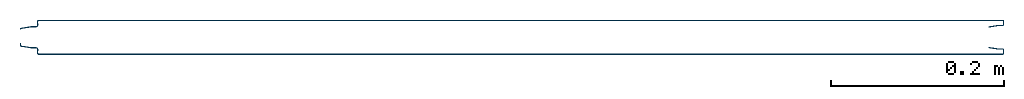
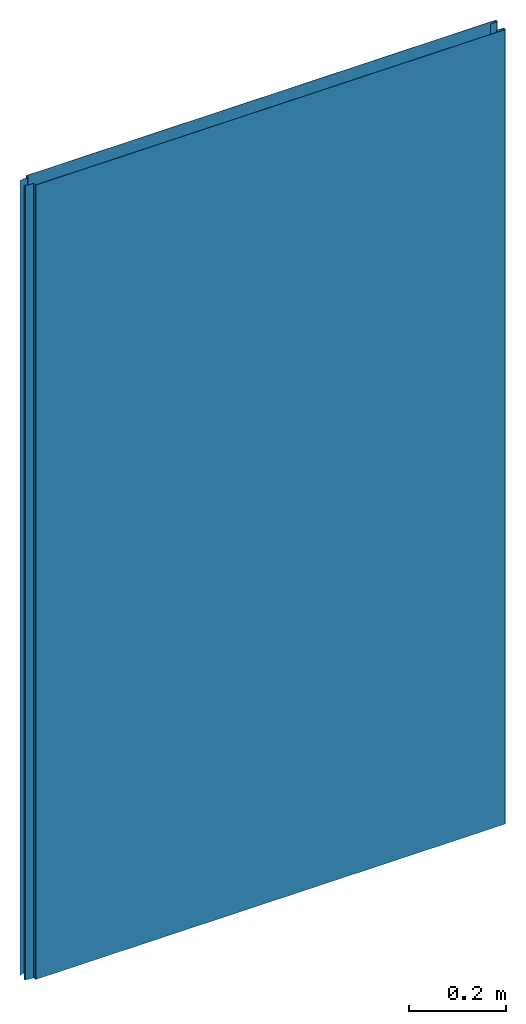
# One storey: 1 wall.
"""IFC2X3 building model written with IfcOpenShell, lengths in metres."""

import ifcopenshell
import ifcopenshell.guid

model = None  # the IFC model being written
_history = None  # IfcOwnerHistory: only IFC2X3 demands one
_inside = {}  # id of a spatial element -> (the spatial element, [elements in it])
_under = {}  # id of a project, library or spatial element -> (it, [spatial elements below it])
_declared = {}  # id of a project -> (the project, [libraries it declares])
_typed = {}  # id of a type object -> (the type object, [elements of that type])
_made_of = {}  # id of a material, layer set ... -> (it, [elements and type objects made of it])


def new_model(schema):
    """Start an empty IFC model of exactly this schema.

    Asked for "IFC4X3", IfcOpenShell would pick the latest addendum, in which some entities
    have other attributes; the version numbers below select the first issue.
    IFC2X3 requires an IfcOwnerHistory on every rooted entity: one is made here for all.
    """
    global model, _history
    if schema == "IFC4X3":
        model = ifcopenshell.file(schema_version=(4, 3, 0, 0))
    else:
        model = ifcopenshell.file(schema=schema)
    _inside.clear()
    _under.clear()
    _declared.clear()
    _typed.clear()
    _made_of.clear()
    _history = None
    if model.schema == "IFC2X3":
        org = make("IfcOrganization", Name="unknown")
        user = make(
            "IfcPersonAndOrganization",
            ThePerson=make("IfcPerson", FamilyName="unknown"),
            TheOrganization=org,
        )
        app = make(
            "IfcApplication",
            ApplicationDeveloper=org,
            Version="unknown",
            ApplicationFullName="unknown",
            ApplicationIdentifier="unknown",
        )
        _history = make(
            "IfcOwnerHistory",
            OwningUser=user,
            OwningApplication=app,
            ChangeAction="ADDED",
            CreationDate=0,
        )
    return model


def make(cls, **values):
    """One entity of the class cls with the attributes given. An attribute that is None is left unset."""
    return model.create_entity(
        cls, **{name: value for name, value in values.items() if value is not None}
    )


def entity(cls, *values):
    """Any entity or typed value of the class cls, its attributes in the order of the schema. None: left unset."""
    e = model.create_entity(cls)
    for i, value in enumerate(values):
        if value is not None:
            e[i] = value
    return e


def rooted(cls, **values):
    """An entity with a GlobalId (a new one), such as an element, a storey or a relation."""
    return make(cls, GlobalId=ifcopenshell.guid.new(), OwnerHistory=_history, **values)


def si_unit(unit_type, name, prefix=None):
    """IfcSIUnit, for example si_unit("LENGTHUNIT", "METRE", prefix="MILLI")."""
    return make("IfcSIUnit", UnitType=unit_type, Prefix=prefix, Name=name)


def converted_unit(unit_type, name, factor, base, dimensions=None, offset=None):
    """IfcConversionBasedUnit, such as the inch: factor (a typed value) times the base unit."""
    return make(
        "IfcConversionBasedUnit"
        if offset is None
        else "IfcConversionBasedUnitWithOffset",
        ConversionOffset=offset,
        Dimensions=None
        if dimensions is None
        else entity("IfcDimensionalExponents", *dimensions),
        UnitType=unit_type,
        Name=name,
        ConversionFactor=make(
            "IfcMeasureWithUnit", ValueComponent=factor, UnitComponent=base
        ),
    )


def derived_unit(unit_type, elements):
    """IfcDerivedUnit: a product of units, each with its exponent."""
    return make(
        "IfcDerivedUnit",
        Elements=[
            make("IfcDerivedUnitElement", Unit=unit, Exponent=power)
            for unit, power in elements
        ],
        UnitType=unit_type,
    )


def assignment(units):
    """IfcUnitAssignment: the units of a project."""
    return None if units is None else make("IfcUnitAssignment", Units=units)


def point(xyz):
    """IfcCartesianPoint."""
    return None if xyz is None else make("IfcCartesianPoint", Coordinates=xyz)


def direction(xyz):
    """IfcDirection."""
    return None if xyz is None else make("IfcDirection", DirectionRatios=xyz)


def frame(location, z_axis=None, x_axis=None):
    """IfcAxis2Placement3D, a coordinate frame: its origin and axes. An axis left out is left unset."""
    return make(
        "IfcAxis2Placement3D",
        Location=point(location),
        Axis=direction(z_axis),
        RefDirection=direction(x_axis),
    )


def frame_2d(location, x_axis=None):
    """IfcAxis2Placement2D, a coordinate frame in the plane: its origin and x axis."""
    return make(
        "IfcAxis2Placement2D", Location=point(location), RefDirection=direction(x_axis)
    )


def origin():
    """The frame at (0, 0, 0) with its axes left unset."""
    return frame((0.0, 0.0, 0.0))


def place(relative_to, where):
    """IfcLocalPlacement: puts the frame where relative to a parent placement (None: the world)."""
    return make(
        "IfcLocalPlacement", PlacementRelTo=relative_to, RelativePlacement=where
    )


def context(
    kind, dimensions, precision=None, world=None, true_north=None, identifier=None
):
    """IfcGeometricRepresentationContext, for example the 3D "Model" context."""
    return make(
        "IfcGeometricRepresentationContext",
        ContextIdentifier=identifier,
        ContextType=kind,
        CoordinateSpaceDimension=dimensions,
        Precision=precision,
        WorldCoordinateSystem=world,
        TrueNorth=true_north,
    )


def subcontext(parent, identifier, kind, view, scale=None):
    """IfcGeometricRepresentationSubContext, for example "Body" below "Model"."""
    return make(
        "IfcGeometricRepresentationSubContext",
        ContextIdentifier=identifier,
        ContextType=kind,
        ParentContext=parent,
        TargetScale=scale,
        TargetView=view,
    )


def project(units=None, contexts=None):
    """IfcProject with its units and contexts."""
    return rooted(
        "IfcProject",
        Name="project",
        RepresentationContexts=contexts,
        UnitsInContext=assignment(units),
    )


def spatial(cls, under=None, at=None, **own):
    """A site, building, storey or space (cls), placed at a placement, below another one or the project."""
    s = rooted(cls, ObjectPlacement=at, **own)
    if under is not None:
        _under.setdefault(under.id(), (under, []))[1].append(s)
    return s


def polyline(points):
    """IfcPolyline through the points."""
    return make("IfcPolyline", Points=[point(p) for p in points])


def circle_curve(where, radius):
    """IfcCircle in the frame where."""
    return make("IfcCircle", Position=where, Radius=radius)


def parameter(value):
    """IfcParameterValue: where a trimmed curve begins or ends, as a parameter of its basis curve."""
    return model.create_entity("IfcParameterValue", value)


def trimmed(basis, trim1, trim2, sense, master):
    """IfcTrimmedCurve: the piece of a basis curve between two trims."""
    return make(
        "IfcTrimmedCurve",
        BasisCurve=basis,
        Trim1=trim1,
        Trim2=trim2,
        SenseAgreement=sense,
        MasterRepresentation=master,
    )


def segment(curve, same_sense, transition):
    """IfcCompositeCurveSegment."""
    return make(
        "IfcCompositeCurveSegment",
        Transition=transition,
        SameSense=same_sense,
        ParentCurve=curve,
    )


def composite_curve(segments, self_intersect=None):
    """IfcCompositeCurve: segments joined end to end."""
    return make("IfcCompositeCurve", Segments=segments, SelfIntersect=self_intersect)


def outline(outer, holes=None, kind="AREA"):
    """IfcArbitraryClosedProfileDef: a profile drawn as a closed curve; with holes, ...WithVoids."""
    if holes is None:
        return make("IfcArbitraryClosedProfileDef", ProfileType=kind, OuterCurve=outer)
    return make(
        "IfcArbitraryProfileDefWithVoids",
        ProfileType=kind,
        OuterCurve=outer,
        InnerCurves=holes,
    )


def extrude(swept, where, along, depth):
    """IfcExtrudedAreaSolid: the profile swept, set in the frame where, extruded along a direction by depth."""
    return make(
        "IfcExtrudedAreaSolid",
        SweptArea=swept,
        Position=where,
        ExtrudedDirection=direction(along),
        Depth=depth,
    )


def shape(context_of_items, identifier, shape_type, items):
    """IfcShapeRepresentation: the items that make up one representation, for example the "Body"."""
    return make(
        "IfcShapeRepresentation",
        ContextOfItems=context_of_items,
        RepresentationIdentifier=identifier,
        RepresentationType=shape_type,
        Items=items,
    )


def source(mapping_origin, context_of_items, identifier, shape_type, items):
    """IfcRepresentationMap: a shape defined once, which mapped items show again and again."""
    return make(
        "IfcRepresentationMap",
        MappingOrigin=mapping_origin,
        MappedRepresentation=shape(context_of_items, identifier, shape_type, items),
    )


def transform(
    local_origin,
    x_axis=None,
    y_axis=None,
    z_axis=None,
    scale=None,
    scale2=None,
    scale3=None,
    uniform=True,
):
    """IfcCartesianTransformationOperator3D, or its non-uniform kind. x_axis, y_axis, z_axis: its Axis1, 2, 3."""
    if uniform:
        return make(
            "IfcCartesianTransformationOperator3D",
            Axis1=direction(x_axis),
            Axis2=direction(y_axis),
            LocalOrigin=point(local_origin),
            Scale=scale,
            Axis3=direction(z_axis),
        )
    return make(
        "IfcCartesianTransformationOperator3DnonUniform",
        Axis1=direction(x_axis),
        Axis2=direction(y_axis),
        LocalOrigin=point(local_origin),
        Scale=scale,
        Axis3=direction(z_axis),
        Scale2=scale2,
        Scale3=scale3,
    )


def mapped(mapping_source, mapping_target):
    """IfcMappedItem: shows the shape of a source again, moved by a transform."""
    return make(
        "IfcMappedItem", MappingSource=mapping_source, MappingTarget=mapping_target
    )


def material(Name=None, Category=None):
    """IfcMaterial."""
    return make("IfcMaterial", Name=Name, Category=Category)


def material_list(materials):
    """IfcMaterialList."""
    return make("IfcMaterialList", Materials=materials)


def made_of(thing, what):
    """Note that an element or type object is made of a material, layer set ...; save() writes the relation."""
    if what is not None:
        _made_of.setdefault(what.id(), (what, []))[1].append(thing)
    return thing


def type_object(cls, material=None, **own):
    """A type object (cls), such as IfcWallType, which elements share."""
    return made_of(rooted(cls, **own), material)


def type_shapes(of_type, sources):
    """Give a type object the sources (RepresentationMaps) that its elements show as mapped items."""
    of_type.RepresentationMaps = sources


def element(
    cls,
    number,
    at=None,
    inside=None,
    cuts=None,
    type_object=None,
    material=None,
    context=None,
    identifier="Body",
    shape_type=None,
    held_by="IfcProductDefinitionShape",
    body=None,
    shapes=None,
    **own,
):
    """One element of the class cls, such as IfcWall. Its Tag is "e" and its number.

    at: its placement. inside: the storey or other place that contains it. cuts: it is an
    opening in that element (IfcRelVoidsElement). A single representation is given by context,
    identifier, shape_type and body (its items); several are given by shapes. held_by: the class
    of the entity that holds the representations. save() writes the other relations.
    """
    e = rooted(cls, Tag="e%d" % number, ObjectPlacement=at, **own)
    if body is not None:
        shapes = [shape(context, identifier, shape_type, body)]
    if shapes is not None:
        e.Representation = make(held_by, Representations=shapes)
    if inside is not None:
        _inside.setdefault(inside.id(), (inside, []))[1].append(e)
    if cuts is not None:
        rooted(
            "IfcRelVoidsElement", RelatingBuildingElement=cuts, RelatedOpeningElement=e
        )
    if type_object is not None:
        _typed.setdefault(type_object.id(), (type_object, []))[1].append(e)
    return made_of(e, material)


def aggregate(whole, parts):
    """IfcRelAggregates: a whole, such as a stair, and the parts it consists of."""
    return rooted("IfcRelAggregates", RelatingObject=whole, RelatedObjects=parts)


def save(model, path):
    """Write the relations noted so far, then the file.

    IfcRelAggregates (storeys below a building ...), IfcRelContainedInSpatialStructure (elements
    in a storey), IfcRelDefinesByType, IfcRelAssociatesMaterial and IfcRelDeclares: one each for
    every whole, place, type object, material and project.
    """
    for whole, parts in _under.values():
        aggregate(whole, parts)
    for where, things in _inside.values():
        rooted(
            "IfcRelContainedInSpatialStructure",
            RelatedElements=things,
            RelatingStructure=where,
        )
    for kind, things in _typed.values():
        rooted("IfcRelDefinesByType", RelatedObjects=things, RelatingType=kind)
    for what, things in _made_of.values():
        rooted("IfcRelAssociatesMaterial", RelatedObjects=things, RelatingMaterial=what)
    for by, libraries in _declared.values():
        rooted("IfcRelDeclares", RelatingContext=by, RelatedDefinitions=libraries)
    model.write(path)


model = new_model("IFC2X3")

# Units and contexts
model_context = context("Model", 3, precision=1e-05, world=origin(), true_north=direction((6.12303176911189e-17, 1.0)))
body_context = subcontext(model_context, "Body", "Model", "MODEL_VIEW")
ifc_project = project(units=[si_unit("LENGTHUNIT", "METRE"), si_unit("AREAUNIT", "SQUARE_METRE"), si_unit("VOLUMEUNIT", "CUBIC_METRE"), converted_unit("PLANEANGLEUNIT", "DEGREE", entity("IfcRatioMeasure", 0.0174532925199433), si_unit("PLANEANGLEUNIT", "RADIAN"), dimensions=[0, 0, 0, 0, 0, 0, 0]), si_unit("MASSUNIT", "GRAM", prefix="KILO"), derived_unit("MASSDENSITYUNIT", [(si_unit("MASSUNIT", "GRAM", prefix="KILO"), 1), (si_unit("LENGTHUNIT", "METRE"), -3)]), derived_unit("MOMENTOFINERTIAUNIT", [(si_unit("LENGTHUNIT", "METRE"), 4)]), si_unit("TIMEUNIT", "SECOND"), si_unit("FREQUENCYUNIT", "HERTZ"), si_unit("THERMODYNAMICTEMPERATUREUNIT", "DEGREE_CELSIUS"), derived_unit("THERMALTRANSMITTANCEUNIT", [(si_unit("MASSUNIT", "GRAM", prefix="KILO"), 1), (si_unit("THERMODYNAMICTEMPERATUREUNIT", "KELVIN"), -1), (si_unit("TIMEUNIT", "SECOND"), -3)]), derived_unit("VOLUMETRICFLOWRATEUNIT", [(si_unit("LENGTHUNIT", "METRE"), 3), (si_unit("TIMEUNIT", "SECOND"), -1)]), si_unit("ELECTRICCURRENTUNIT", "AMPERE"), si_unit("ELECTRICVOLTAGEUNIT", "VOLT"), si_unit("POWERUNIT", "WATT"), si_unit("FORCEUNIT", "NEWTON", prefix="KILO"), si_unit("ILLUMINANCEUNIT", "LUX"), si_unit("LUMINOUSFLUXUNIT", "LUMEN"), si_unit("LUMINOUSINTENSITYUNIT", "CANDELA"), derived_unit("USERDEFINED", [(si_unit("MASSUNIT", "GRAM", prefix="KILO"), -1), (si_unit("LENGTHUNIT", "METRE"), -2), (si_unit("TIMEUNIT", "SECOND"), 3), (si_unit("LUMINOUSFLUXUNIT", "LUMEN"), 1)]), derived_unit("LINEARVELOCITYUNIT", [(si_unit("LENGTHUNIT", "METRE"), 1), (si_unit("TIMEUNIT", "SECOND"), -1)]), si_unit("PRESSUREUNIT", "PASCAL"), derived_unit("USERDEFINED", [(si_unit("LENGTHUNIT", "METRE"), -2), (si_unit("MASSUNIT", "GRAM", prefix="KILO"), 1), (si_unit("TIMEUNIT", "SECOND"), -2)]), derived_unit("LINEARFORCEUNIT", [(si_unit("MASSUNIT", "GRAM", prefix="KILO"), 1), (si_unit("LENGTHUNIT", "METRE"), 1), (si_unit("TIMEUNIT", "SECOND"), -2), (si_unit("LENGTHUNIT", "METRE"), -1)]), derived_unit("PLANARFORCEUNIT", [(si_unit("MASSUNIT", "GRAM", prefix="KILO"), 1), (si_unit("LENGTHUNIT", "METRE"), 1), (si_unit("TIMEUNIT", "SECOND"), -2), (si_unit("LENGTHUNIT", "METRE"), -2)])], contexts=[model_context])

# Site, building, storey
site_placement = place(None, origin())
site = spatial("IfcSite", under=ifc_project, at=site_placement, Name="Default", CompositionType="ELEMENT")
building_placement = place(site_placement, origin())
building = spatial("IfcBuilding", under=site, at=building_placement, CompositionType="ELEMENT")
storey_placement = place(building_placement, origin())
storey = spatial("IfcBuildingStorey", under=building, at=storey_placement, Name="Nivel 1", CompositionType="ELEMENT", Elevation=0.0)

# Wall
ifc_material_1 = material(Name="Acero estructural S220GD")
ifc_material_2 = material(Name="QuadCore 2.0")
ifc_material_list_1 = material_list([ifc_material_1, ifc_material_2])
ifc_material_list_2 = material_list([ifc_material_2, ifc_material_1])
wall_type = type_object("IfcWallType", Name="Panel_HI_QuadCore 2.0 F40_liso-liso:HI-Quadcore 2.0 F40 liso-liso", PredefinedType="NOTDEFINED", material=ifc_material_list_2)
shared_shape = source(origin(), body_context, "Body", "SweptSolid", [
    extrude(outline(composite_curve([segment(trimmed(circle_curve(frame_2d((-0.534942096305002, 0.00505781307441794), x_axis=(1.0, 0.0)), 0.00160000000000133), [parameter(180.0)], [parameter(258.369443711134)], True, "PARAMETER"), True, "CONTINUOUS"), segment(polyline([(-0.535264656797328, 0.00349066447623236), (-0.524309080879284, 0.00174622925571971)]), True, "CONTINUOUS"), segment(trimmed(circle_curve(frame_2d((-0.523412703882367, 0.0117059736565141), x_axis=(1.0, 0.0)), 0.0100000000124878), [parameter(264.857235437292)], [parameter(269.999999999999)], True, "PARAMETER"), True, "CONTINUOUS"), segment(polyline([(-0.523412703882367, 0.00170597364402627), (-0.518070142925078, 0.00170597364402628)]), True, "CONTINUOUS"), segment(trimmed(circle_curve(frame_2d((-0.518070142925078, 0.000105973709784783), x_axis=(1.0, 0.0)), 0.0015999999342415), [parameter(359.032356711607)], [parameter(90.0000000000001)], True, "PARAMETER"), False, "CONTINUOUS"), segment(polyline([(-0.516470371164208, 7.89532972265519e-05), (-0.516542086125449, -0.00416700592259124)]), True, "CONTINUOUS"), segment(trimmed(circle_curve(frame_2d((-0.514942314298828, -0.00419402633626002), x_axis=(1.0, 0.0)), 0.0016000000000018), [parameter(179.032356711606)], [parameter(270.000025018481)], True, "PARAMETER"), True, "CONTINUOUS"), segment(polyline([(-0.51494231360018, -0.00579402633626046), (0.601380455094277, -0.00579353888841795)]), True, "CONTINUOUS"), segment(trimmed(circle_curve(frame_2d((0.601380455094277, -0.0041934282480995), x_axis=(1.0, 0.0)), 0.00160011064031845), [parameter(270.000000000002)], [parameter(351.367947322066)], True, "PARAMETER"), True, "CONTINUOUS"), segment(polyline([(0.602962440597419, -0.00443358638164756), (0.602888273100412, -0.000464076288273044)]), True, "CONTINUOUS"), segment(trimmed(circle_curve(frame_2d((0.601288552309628, -0.000493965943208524), x_axis=(1.0, 0.0)), 0.00159999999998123), [parameter(1.07040668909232)], [parameter(90.0000000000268)], True, "PARAMETER"), True, "CONTINUOUS"), segment(polyline([(0.601288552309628, 0.00110603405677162), (0.596086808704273, 0.00110603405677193)]), True, "CONTINUOUS"), segment(trimmed(circle_curve(frame_2d((0.596086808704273, 0.0117060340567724), x_axis=(1.0, 0.0)), 0.0106000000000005), [parameter(264.745082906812)], [parameter(270.0)], True, "PARAMETER"), False, "CONTINUOUS"), segment(polyline([(0.595115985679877, 0.00115058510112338), (0.585422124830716, 0.00269411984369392)]), True, "CONTINUOUS"), segment(polyline([(0.585422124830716, 0.00269411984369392), (0.585296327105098, 0.00190407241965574)]), True, "CONTINUOUS"), segment(polyline([(0.585296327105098, 0.00190407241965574), (0.595015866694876, 0.00035644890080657)]), True, "CONTINUOUS"), segment(trimmed(circle_curve(frame_2d((0.596086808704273, 0.0117060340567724), x_axis=(1.0, 0.0)), 0.0114000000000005), [parameter(264.609555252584)], [parameter(270.0)], True, "PARAMETER"), True, "CONTINUOUS"), segment(polyline([(0.596086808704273, 0.000306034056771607), (0.601288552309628, 0.000306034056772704)]), True, "CONTINUOUS"), segment(trimmed(circle_curve(frame_2d((0.601288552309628, -0.000493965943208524), x_axis=(1.0, 0.0)), 0.000799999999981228), [parameter(1.07040668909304)], [parameter(89.9999999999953)], True, "PARAMETER"), False, "CONTINUOUS"), segment(polyline([(0.602088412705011, -0.000479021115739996), (0.602161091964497, -0.00436887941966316)]), True, "CONTINUOUS"), segment(trimmed(circle_curve(frame_2d((0.601380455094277, -0.0041934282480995), x_axis=(1.0, 0.0)), 0.000800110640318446), [parameter(270.000000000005)], [parameter(347.333038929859)], True, "PARAMETER"), False, "CONTINUOUS"), segment(polyline([(0.601380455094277, -0.0049940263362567), (-0.514942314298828, -0.00499402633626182)]), True, "CONTINUOUS"), segment(trimmed(circle_curve(frame_2d((-0.514942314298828, -0.00419402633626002), x_axis=(1.0, 0.0)), 0.000800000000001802), [parameter(179.032356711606)], [parameter(270.0)], True, "PARAMETER"), False, "CONTINUOUS"), segment(polyline([(-0.515742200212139, -0.00418051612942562), (-0.515670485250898, 6.54430903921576e-05)]), True, "CONTINUOUS"), segment(trimmed(circle_curve(frame_2d((-0.518070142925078, 0.000105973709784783), x_axis=(1.0, 0.0)), 0.0023999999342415), [parameter(359.032356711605)], [parameter(90.0000000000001)], True, "PARAMETER"), True, "CONTINUOUS"), segment(polyline([(-0.518070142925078, 0.00250597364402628), (-0.523412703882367, 0.00250597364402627)]), True, "CONTINUOUS"), segment(trimmed(circle_curve(frame_2d((-0.523412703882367, 0.0117059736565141), x_axis=(1.0, 0.0)), 0.00920000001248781), [parameter(265.023521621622)], [parameter(270.0)], True, "PARAMETER"), False, "CONTINUOUS"), segment(polyline([(-0.524210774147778, 0.00254065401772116), (-0.535117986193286, 0.00427738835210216)]), True, "CONTINUOUS"), segment(trimmed(circle_curve(frame_2d((-0.534942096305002, 0.00505781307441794), x_axis=(1.0, 0.0)), 0.00080000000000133), [parameter(180.0)], [parameter(257.299051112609)], True, "PARAMETER"), False, "CONTINUOUS"), segment(polyline([(-0.535742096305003, 0.00505781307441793), (-0.536542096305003, 0.00505781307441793)]), True, "CONTINUOUS")], self_intersect=False)), frame((-0.0332076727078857, 0.0142059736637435, 0.0), z_axis=(0.0, 0.0, -1.0), x_axis=(1.0, 0.0, 0.0)), (0.0, 0.0, -1.0), 2.0),
    extrude(outline(composite_curve([segment(polyline([(-0.00661663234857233, -0.503033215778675), (-0.00461667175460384, -0.503033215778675)]), True, "CONTINUOUS"), segment(trimmed(circle_curve(frame_2d((-0.004616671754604, -0.501433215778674), x_axis=(0.0, 1.0)), 0.00160000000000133), [parameter(180.0)], [parameter(258.369443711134)], True, "PARAMETER"), True, "CONTINUOUS"), segment(polyline([(-0.0030495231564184, -0.501755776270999), (-0.00130508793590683, -0.490800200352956)]), True, "CONTINUOUS"), segment(trimmed(circle_curve(frame_2d((-0.0112648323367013, -0.48990382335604), x_axis=(0.0, 1.0)), 0.0100000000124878), [parameter(264.857235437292)], [parameter(269.999999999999)], True, "PARAMETER"), True, "CONTINUOUS"), segment(polyline([(-0.00126483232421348, -0.489903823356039), (-0.00126483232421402, -0.48456126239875)]), True, "CONTINUOUS"), segment(trimmed(circle_curve(frame_2d((0.00033516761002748, -0.484561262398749), x_axis=(0.0, 1.0)), 0.0015999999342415), [parameter(359.032356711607)], [parameter(90.0000000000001)], True, "PARAMETER"), False, "CONTINUOUS"), segment(polyline([(0.000362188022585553, -0.482961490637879), (0.00460814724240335, -0.48303320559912)]), True, "CONTINUOUS"), segment(trimmed(circle_curve(frame_2d((0.00463516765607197, -0.481433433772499), x_axis=(0.0, 1.0)), 0.0016000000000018), [parameter(179.032356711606)], [parameter(270.0)], True, "PARAMETER"), True, "CONTINUOUS"), segment(polyline([(0.00623516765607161, -0.481433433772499), (0.00623516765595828, 0.634889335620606)]), True, "CONTINUOUS"), segment(trimmed(circle_curve(frame_2d((0.00463456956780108, 0.634889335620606), x_axis=(0.0, 1.0)), 0.00160011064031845), [parameter(269.999999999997)], [parameter(351.367947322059)], True, "PARAMETER"), True, "CONTINUOUS"), segment(polyline([(0.00487472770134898, 0.636471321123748), (0.000905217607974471, 0.636397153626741)]), True, "CONTINUOUS"), segment(trimmed(circle_curve(frame_2d((0.000935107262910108, 0.634797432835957), x_axis=(0.0, 1.0)), 0.00159999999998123), [parameter(1.07040668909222)], [parameter(90.0000000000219)], True, "PARAMETER"), True, "CONTINUOUS"), segment(polyline([(-0.000664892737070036, 0.634797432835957), (-0.000664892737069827, 0.629595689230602)]), True, "CONTINUOUS"), segment(trimmed(circle_curve(frame_2d((-0.0112648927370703, 0.629595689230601), x_axis=(0.0, 1.0)), 0.0106000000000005), [parameter(264.745082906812)], [parameter(270.0)], True, "PARAMETER"), False, "CONTINUOUS"), segment(polyline([(-0.000709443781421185, 0.628624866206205), (-0.00225297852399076, 0.618931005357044)]), True, "CONTINUOUS"), segment(polyline([(-0.00225297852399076, 0.618931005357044), (-0.00146293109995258, 0.618805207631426)]), True, "CONTINUOUS"), segment(polyline([(-0.00146293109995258, 0.618805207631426), (8.4692418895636e-05, 0.628524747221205)]), True, "CONTINUOUS"), segment(trimmed(circle_curve(frame_2d((-0.0112648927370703, 0.629595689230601), x_axis=(0.0, 1.0)), 0.0114000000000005), [parameter(264.609555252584)], [parameter(270.0)], True, "PARAMETER"), True, "CONTINUOUS"), segment(polyline([(0.000135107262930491, 0.629595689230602), (0.000135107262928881, 0.634797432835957)]), True, "CONTINUOUS"), segment(trimmed(circle_curve(frame_2d((0.000935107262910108, 0.634797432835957), x_axis=(0.0, 1.0)), 0.000799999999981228), [parameter(1.07040668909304)], [parameter(90.0000000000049)], True, "PARAMETER"), False, "CONTINUOUS"), segment(polyline([(0.000920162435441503, 0.635597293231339), (0.00481002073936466, 0.635669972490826)]), True, "CONTINUOUS"), segment(trimmed(circle_curve(frame_2d((0.00463456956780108, 0.634889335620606), x_axis=(0.0, 1.0)), 0.000800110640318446), [parameter(270.000000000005)], [parameter(347.333038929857)], True, "PARAMETER"), False, "CONTINUOUS"), segment(polyline([(0.00543468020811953, 0.634889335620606), (0.00543468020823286, -0.481433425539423)]), True, "CONTINUOUS"), segment(trimmed(circle_curve(frame_2d((0.00463468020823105, -0.481433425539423), x_axis=(0.0, 1.0)), 0.000800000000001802), [parameter(179.032356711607)], [parameter(270.0)], True, "PARAMETER"), False, "CONTINUOUS"), segment(polyline([(0.00462117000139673, -0.482233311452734), (0.000375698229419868, -0.482161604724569)]), True, "CONTINUOUS"), segment(trimmed(circle_curve(frame_2d((0.00033516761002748, -0.484561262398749), x_axis=(0.0, 1.0)), 0.0023999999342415), [parameter(359.032356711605)], [parameter(90.0000000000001)], True, "PARAMETER"), True, "CONTINUOUS"), segment(polyline([(-0.00206483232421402, -0.48456126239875), (-0.00206483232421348, -0.489903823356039)]), True, "CONTINUOUS"), segment(trimmed(circle_curve(frame_2d((-0.0112648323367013, -0.48990382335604), x_axis=(0.0, 1.0)), 0.00920000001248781), [parameter(265.023521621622)], [parameter(270.0)], True, "PARAMETER"), False, "CONTINUOUS"), segment(polyline([(-0.00209951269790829, -0.49070189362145), (-0.00383624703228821, -0.501609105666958)]), True, "CONTINUOUS"), segment(trimmed(circle_curve(frame_2d((-0.004616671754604, -0.501433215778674), x_axis=(0.0, 1.0)), 0.00080000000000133), [parameter(180.0)], [parameter(257.299051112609)], True, "PARAMETER"), False, "CONTINUOUS"), segment(polyline([(-0.00461667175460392, -0.502233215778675), (-0.00661663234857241, -0.502233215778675)]), True, "CONTINUOUS"), segment(polyline([(-0.00661663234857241, -0.502233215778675), (-0.00661663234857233, -0.503033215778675)]), True, "CONTINUOUS")], self_intersect=False)), frame((-0.0667165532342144, -0.0137648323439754, 0.0), z_axis=(0.0, 0.0, 1.0), x_axis=(0.0, -1.0, 0.0)), (0.0, 0.0, 1.0), 2.0),
    extrude(outline(composite_curve([segment(polyline([(0.58442927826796, -0.00928018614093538), (0.58522927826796, -0.00928018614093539)]), True, "CONTINUOUS"), segment(polyline([(0.58522927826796, -0.00928018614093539), (0.58522927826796, 0.00701617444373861)]), True, "CONTINUOUS"), segment(polyline([(0.58522927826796, 0.00701617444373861), (0.584429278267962, 0.00701617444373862)]), True, "CONTINUOUS"), segment(polyline([(0.584429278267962, 0.00701617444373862), (0.584429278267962, 0.00901613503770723)]), True, "CONTINUOUS"), segment(trimmed(circle_curve(frame_2d((0.583629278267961, 0.0090161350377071), x_axis=(-1.0, 0.0)), 0.00080000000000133), [parameter(180.000000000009)], [parameter(257.299051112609)], True, "PARAMETER"), True, "CONTINUOUS"), segment(polyline([(0.583805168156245, 0.00979655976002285), (0.572897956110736, 0.0115332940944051)]), True, "CONTINUOUS"), segment(trimmed(circle_curve(frame_2d((0.572099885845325, 0.00236797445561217), x_axis=(-1.0, 0.0)), 0.00920000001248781), [parameter(265.023521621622)], [parameter(269.999999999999)], True, "PARAMETER"), True, "CONTINUOUS"), segment(polyline([(0.572099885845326, 0.0115679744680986), (0.566757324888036, 0.0115679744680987)]), True, "CONTINUOUS"), segment(trimmed(circle_curve(frame_2d((0.566757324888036, 0.0139679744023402), x_axis=(-1.0, 0.0)), 0.0023999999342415), [parameter(359.032356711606)], [parameter(90.0000000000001)], True, "PARAMETER"), False, "CONTINUOUS"), segment(polyline([(0.564357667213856, 0.0140085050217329), (0.564429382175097, 0.0182544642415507)]), True, "CONTINUOUS"), segment(trimmed(circle_curve(frame_2d((0.563629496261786, 0.0182679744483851), x_axis=(-1.0, 0.0)), 0.000800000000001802), [parameter(179.032356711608)], [parameter(269.999999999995)], True, "PARAMETER"), True, "CONTINUOUS"), segment(polyline([(0.563629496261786, 0.0190679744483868), (-0.552693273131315, 0.0190679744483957)]), True, "CONTINUOUS"), segment(trimmed(circle_curve(frame_2d((-0.552693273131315, 0.0182673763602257), x_axis=(-1.0, 0.0)), 0.000800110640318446), [parameter(270.0)], [parameter(347.333038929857)], True, "PARAMETER"), True, "CONTINUOUS"), segment(polyline([(-0.553473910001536, 0.0184428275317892), (-0.553401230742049, 0.0145529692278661)]), True, "CONTINUOUS"), segment(trimmed(circle_curve(frame_2d((-0.552601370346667, 0.0145679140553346), x_axis=(-1.0, 0.0)), 0.000799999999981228), [parameter(1.07040668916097)], [parameter(90.0000000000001)], True, "PARAMETER"), True, "CONTINUOUS"), segment(polyline([(-0.552601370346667, 0.0137679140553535), (-0.547399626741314, 0.0137679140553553)]), True, "CONTINUOUS"), segment(trimmed(circle_curve(frame_2d((-0.547399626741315, 0.00236791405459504), x_axis=(-1.0, 0.0)), 0.0114000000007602), [parameter(264.609555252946)], [parameter(270.000000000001)], True, "PARAMETER"), False, "CONTINUOUS"), segment(polyline([(-0.546328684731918, 0.0137174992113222), (-0.536609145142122, 0.0121698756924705)]), True, "CONTINUOUS"), segment(polyline([(-0.536609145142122, 0.0121698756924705), (-0.536735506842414, 0.0113762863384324)]), True, "CONTINUOUS"), segment(polyline([(-0.536735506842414, 0.0113762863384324), (-0.535868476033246, 0.0112382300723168)]), True, "CONTINUOUS"), segment(trimmed(circle_curve(frame_2d((-0.536972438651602, 0.00852819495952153), x_axis=(-1.0, 0.0)), 0.00292626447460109), [parameter(221.820432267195)], [parameter(247.835934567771)], True, "PARAMETER"), False, "CONTINUOUS"), segment(polyline([(-0.53479167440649, 0.0104794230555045), (-0.534791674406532, -0.0107430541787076)]), True, "CONTINUOUS"), segment(trimmed(circle_curve(frame_2d((-0.536972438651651, -0.008791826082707), x_axis=(-1.0, 0.0)), 0.00292626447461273), [parameter(112.16411411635)], [parameter(138.179567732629)], True, "PARAMETER"), False, "CONTINUOUS"), segment(polyline([(-0.535868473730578, -0.011501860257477), (-0.536722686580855, -0.0116378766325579)]), True, "CONTINUOUS"), segment(polyline([(-0.536722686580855, -0.0116378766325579), (-0.536622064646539, -0.0124359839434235)]), True, "CONTINUOUS"), segment(polyline([(-0.536622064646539, -0.0124359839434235), (-0.546328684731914, -0.0139815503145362)]), True, "CONTINUOUS"), segment(trimmed(circle_curve(frame_2d((-0.547399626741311, -0.00263196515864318), x_axis=(-1.0, 0.0)), 0.0114000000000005), [parameter(90.0000000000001)], [parameter(95.3904447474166)], True, "PARAMETER"), False, "CONTINUOUS"), segment(polyline([(-0.547399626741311, -0.0140319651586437), (-0.552601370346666, -0.0140319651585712)]), True, "CONTINUOUS"), segment(trimmed(circle_curve(frame_2d((-0.552601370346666, -0.0148319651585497), x_axis=(-1.0, 0.0)), 0.000799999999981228), [parameter(270.0)], [parameter(358.929593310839)], True, "PARAMETER"), True, "CONTINUOUS"), segment(polyline([(-0.553401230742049, -0.0148170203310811), (-0.553473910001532, -0.0187068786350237)]), True, "CONTINUOUS"), segment(trimmed(circle_curve(frame_2d((-0.552693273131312, -0.01853142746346), x_axis=(-1.0, 0.0)), 0.000800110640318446), [parameter(12.6669610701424)], [parameter(90.0000000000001)], True, "PARAMETER"), True, "CONTINUOUS"), segment(polyline([(-0.552693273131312, -0.0193320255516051), (0.563629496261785, -0.0193320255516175)]), True, "CONTINUOUS"), segment(trimmed(circle_curve(frame_2d((0.563629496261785, -0.0185320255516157), x_axis=(-1.0, 0.0)), 0.000800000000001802), [parameter(90.0000000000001)], [parameter(180.967643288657)], True, "PARAMETER"), True, "CONTINUOUS"), segment(polyline([(0.564429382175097, -0.0185185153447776), (0.564357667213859, -0.0142725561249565)]), True, "CONTINUOUS"), segment(trimmed(circle_curve(frame_2d((0.566757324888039, -0.0142320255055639), x_axis=(-1.0, 0.0)), 0.0023999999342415), [parameter(270.0)], [parameter(0.967643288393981)], True, "PARAMETER"), False, "CONTINUOUS"), segment(polyline([(0.566863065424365, -0.0118320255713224), (0.572099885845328, -0.0118320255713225)]), True, "CONTINUOUS"), segment(trimmed(circle_curve(frame_2d((0.572099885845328, -0.00263202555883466), x_axis=(-1.0, 0.0)), 0.00920000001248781), [parameter(90.0000000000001)], [parameter(94.9764783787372)], True, "PARAMETER"), True, "CONTINUOUS"), segment(polyline([(0.572897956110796, -0.0117973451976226), (0.583805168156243, -0.0100606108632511)]), True, "CONTINUOUS"), segment(trimmed(circle_curve(frame_2d((0.583629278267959, -0.00928018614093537), x_axis=(-1.0, 0.0)), 0.00080000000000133), [parameter(102.700948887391)], [parameter(179.999999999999)], True, "PARAMETER"), True, "CONTINUOUS")], self_intersect=False)), frame((0.0154795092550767, -0.000132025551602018, 0.0), z_axis=(0.0, 0.0, 1.0), x_axis=(-1.0, 0.0, 0.0)), (0.0, 0.0, 1.0), 2.0),
])
type_shapes(wall_type, [shared_shape])
wall_placement = place(storey_placement, frame((0.179030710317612, 0.435507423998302, 0.0)))
element("IfcWallStandardCase", 1, at=wall_placement, inside=storey, type_object=wall_type, material=ifc_material_list_1, Name="Panel_HI_QuadCore 2.0 F40_liso-liso:HI-Quadcore 2.0 F40 liso-liso", ObjectType="Panel_HI_QuadCore 2.0 F40_liso-liso:HI-Quadcore 2.0 F40 liso-liso", context=body_context, shape_type="MappedRepresentation", body=[
    mapped(shared_shape, transform((0.0, 0.0, 0.0), scale=1.0)),
])

save(model, "model.ifc")
